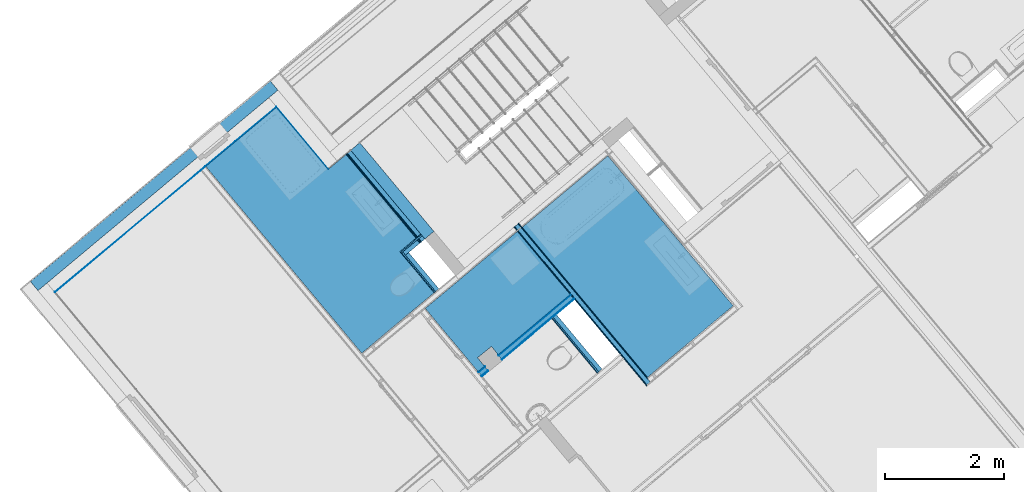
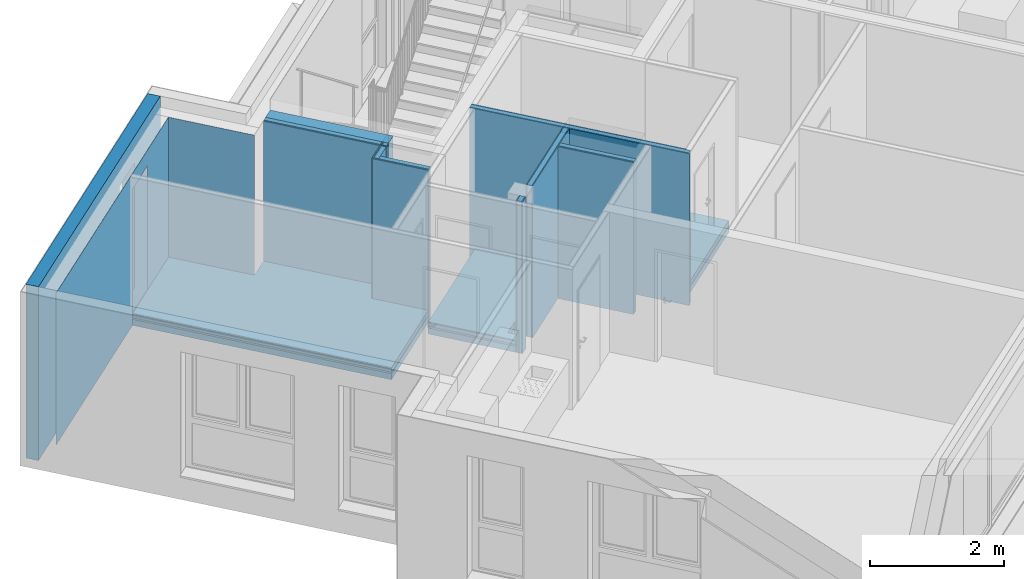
# One storey, part 24 of 50: 34 building element parts, 1 opening, 11 elements without a shape of their own.
"""IFC4 building model written with IfcOpenShell, lengths in metres."""

from ifc_helpers import new_model, entity, si_unit, converted_unit, derived_unit, direction, frame, origin_with_axes, place, context, subcontext, project, spatial, polygons, material, type_object, element, aggregate, save


model = new_model("IFC4")

# Units and contexts
model_context = context("Model", 3, precision=1e-05, world=origin_with_axes(), true_north=direction((0.0, 1.0)))
body_context = subcontext(model_context, "Body", "Model", "MODEL_VIEW")
ifc_project = project(units=[si_unit("LENGTHUNIT", "METRE"), si_unit("AREAUNIT", "SQUARE_METRE"), si_unit("VOLUMEUNIT", "CUBIC_METRE"), converted_unit("PLANEANGLEUNIT", "DEGREE", entity("IfcPlaneAngleMeasure", 0.0174532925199), si_unit("PLANEANGLEUNIT", "RADIAN"), dimensions=[0, 0, 0, 0, 0, 0, 0]), converted_unit("TIMEUNIT", "Year", entity("IfcTimeMeasure", 31556926.0), si_unit("TIMEUNIT", "SECOND"), dimensions=[0, 0, 1, 0, 0, 0, 0]), si_unit("MASSUNIT", "GRAM", prefix="KILO"), si_unit("THERMODYNAMICTEMPERATUREUNIT", "DEGREE_CELSIUS"), si_unit("LUMINOUSINTENSITYUNIT", "LUMEN"), si_unit("ENERGYUNIT", "JOULE", prefix="MEGA"), derived_unit("THERMALCONDUCTANCEUNIT", [(si_unit("POWERUNIT", "WATT"), 1), (si_unit("LENGTHUNIT", "METRE"), -1), (si_unit("THERMODYNAMICTEMPERATUREUNIT", "KELVIN"), -1)]), derived_unit("SPECIFICHEATCAPACITYUNIT", [(si_unit("ENERGYUNIT", "JOULE"), 1), (si_unit("MASSUNIT", "GRAM", prefix="KILO"), -1), (si_unit("THERMODYNAMICTEMPERATUREUNIT", "KELVIN"), -1)]), derived_unit("MASSDENSITYUNIT", [(si_unit("MASSUNIT", "GRAM", prefix="KILO"), 1), (si_unit("VOLUMEUNIT", "CUBIC_METRE"), -1)])], contexts=[model_context])

# Site, building, storey
site_placement = place(None, frame((-0.00153261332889, -0.00661245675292, 0.0), z_axis=(0.0, 0.0, 1.0), x_axis=(1.0, 0.0, 0.0)))
site = spatial("IfcSite", under=ifc_project, at=site_placement, Name="Site", CompositionType="ELEMENT")
building_placement = place(site_placement, origin_with_axes())
building = spatial("IfcBuilding", under=site, at=building_placement, Name="Building", CompositionType="ELEMENT")
storey_placement = place(building_placement, frame((0.0, 0.0, 2.74), z_axis=(0.0, 0.0, 1.0), x_axis=(1.0, 0.0, 0.0)))
storey = spatial("IfcBuildingStorey", under=building, at=storey_placement, Name="OG1", CompositionType="ELEMENT", Elevation=2.74)

# Wall, building element parts
wall_type_1 = type_object("IfcWallType", Name="LB 10,5 cm doppelte Vorsatzschale Bad 105", PredefinedType="NOTDEFINED")
wall_1_placement = place(storey_placement, frame((-0.587223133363, 19.7162753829, 0.0), z_axis=(0.0, 0.0, 1.0), x_axis=(0.64120952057, -0.767365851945, 0.0)))
wall_1 = element("IfcWall", 1, at=wall_1_placement, inside=storey, type_object=wall_type_1, Name="Wand-004", PredefinedType="NOTDEFINED")
ifc_material_1 = material(Name="Mineralwolle weich")
building_element_part_1_placement = place(wall_1_placement, origin_with_axes())
building_element_part_1 = element("IfcBuildingElementPart", 2, at=building_element_part_1_placement, material=ifc_material_1, Name="Mineralwolle weich", PredefinedType="NOTDEFINED", context=body_context, shape_type="Tessellation", body=[
    polygons([(1.30487896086, 0.0, 2.76), (0.10500000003, 0.0, 2.76), (0.105000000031, -0.075, 2.76), (1.30487896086, -0.075, 2.76), (1.30487896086, 0.0, 0.0), (0.10500000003, 0.0, 0.0), (0.105000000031, -0.075, 0.0), (1.30487896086, -0.075, 0.0)], [[[1, 2, 3, 4]], [[5, 6, 2, 1]], [[3, 2, 6, 7]], [[4, 3, 7, 8]], [[4, 8, 5, 1]], [[8, 7, 6, 5]]], closed=True),
])
ifc_material_2 = material(Name="Gipskarton")
building_element_part_2_placement = place(wall_1_placement, origin_with_axes())
building_element_part_2 = element("IfcBuildingElementPart", 3, at=building_element_part_2_placement, material=ifc_material_2, Name="Gipskarton", PredefinedType="NOTDEFINED", context=body_context, shape_type="Tessellation", body=[
    polygons([(1.30487896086, -0.075, 2.76), (0.105000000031, -0.075, 2.76), (0.105000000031, -0.09, 2.76), (1.30487896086, -0.09, 2.76), (1.30487896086, -0.075, 0.0), (0.105000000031, -0.075, 0.0), (0.105000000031, -0.09, 0.0), (1.30487896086, -0.09, 0.0)], [[[1, 2, 3, 4]], [[5, 6, 2, 1]], [[3, 2, 6, 7]], [[4, 3, 7, 8]], [[4, 8, 5, 1]], [[8, 7, 6, 5]]], closed=True),
])
building_element_part_3_placement = place(wall_1_placement, origin_with_axes())
building_element_part_3 = element("IfcBuildingElementPart", 4, at=building_element_part_3_placement, material=ifc_material_2, Name="Gipskarton", PredefinedType="NOTDEFINED", context=body_context, shape_type="Tessellation", body=[
    polygons([(1.30487896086, -0.09, 2.76), (0.105000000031, -0.09, 2.76), (0.105000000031, -0.105, 2.76), (1.30487896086, -0.105, 2.76), (1.30487896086, -0.09, 0.0), (0.105000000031, -0.09, 0.0), (0.105000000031, -0.105, 0.0), (1.30487896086, -0.105, 0.0)], [[[1, 2, 3, 4]], [[5, 6, 2, 1]], [[3, 2, 6, 7]], [[4, 3, 7, 8]], [[4, 8, 5, 1]], [[8, 7, 6, 5]]], closed=True),
])
aggregate(wall_1, [building_element_part_1, building_element_part_2, building_element_part_3])

wall_2_placement = place(storey_placement, frame((-3.007781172, 20.6786353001, 0.0), z_axis=(0.0, 0.0, 1.0), x_axis=(0.641209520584, -0.767365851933, 0.0)))
wall_2 = element("IfcWall", 5, at=wall_2_placement, inside=storey, type_object=wall_type_1, Name="Wand-004", PredefinedType="NOTDEFINED")
building_element_part_4_placement = place(wall_2_placement, origin_with_axes())
building_element_part_4 = element("IfcBuildingElementPart", 6, at=building_element_part_4_placement, material=ifc_material_1, Name="Mineralwolle weich", PredefinedType="NOTDEFINED", context=body_context, shape_type="Tessellation", body=[
    polygons([(0.795549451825, 0.0, 2.76), (0.0, 0.0, 2.76), (0.0, -0.075, 2.76), (0.795584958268, -0.075, 2.76), (0.795549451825, 0.0, 0.0), (0.0, 0.0, 0.0), (0.0, -0.075, 0.0), (0.795584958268, -0.075, 0.0)], [[[1, 2, 3, 4]], [[5, 6, 2, 1]], [[3, 2, 6, 7]], [[4, 3, 7, 8]], [[4, 8, 5, 1]], [[8, 7, 6, 5]]], closed=True),
])
building_element_part_5_placement = place(wall_2_placement, origin_with_axes())
building_element_part_5 = element("IfcBuildingElementPart", 7, at=building_element_part_5_placement, material=ifc_material_2, Name="Gipskarton", PredefinedType="NOTDEFINED", context=body_context, shape_type="Tessellation", body=[
    polygons([(0.795584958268, -0.075, 2.76), (-0.0750000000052, -0.075, 2.76), (-0.0750000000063, -0.09, 2.76), (0.795592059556, -0.09, 2.76), (0.795584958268, -0.075, 0.0), (-0.0750000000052, -0.075, 0.0), (-0.0750000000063, -0.09, 0.0), (0.795592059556, -0.09, 0.0)], [[[1, 2, 3, 4]], [[5, 6, 2, 1]], [[3, 2, 6, 7]], [[4, 3, 7, 8]], [[4, 8, 5, 1]], [[8, 7, 6, 5]]], closed=True),
])
building_element_part_6_placement = place(wall_2_placement, origin_with_axes())
building_element_part_6 = element("IfcBuildingElementPart", 8, at=building_element_part_6_placement, material=ifc_material_2, Name="Gipskarton", PredefinedType="NOTDEFINED", context=body_context, shape_type="Tessellation", body=[
    polygons([(0.795592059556, -0.09, 2.76), (-0.0900000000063, -0.09, 2.76), (-0.0900000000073, -0.105, 2.76), (0.795599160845, -0.105, 2.76), (0.795592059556, -0.09, 0.0), (-0.0900000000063, -0.09, 0.0), (-0.0900000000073, -0.105, 0.0), (0.795599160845, -0.105, 0.0)], [[[1, 2, 3, 4]], [[5, 6, 2, 1]], [[3, 2, 6, 7]], [[4, 3, 7, 8]], [[4, 8, 5, 1]], [[8, 7, 6, 5]]], closed=True),
])
aggregate(wall_2, [building_element_part_4, building_element_part_5, building_element_part_6])

wall_3_placement = place(storey_placement, frame((-2.73492476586, 20.9066336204, 0.0), z_axis=(0.0, 0.0, 1.0), x_axis=(-0.767365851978, -0.64120952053, 0.0)))
wall_3 = element("IfcWall", 9, at=wall_3_placement, inside=storey, type_object=wall_type_1, Name="Wand-004", PredefinedType="NOTDEFINED")
building_element_part_7_placement = place(wall_3_placement, origin_with_axes())
building_element_part_7 = element("IfcBuildingElementPart", 10, at=building_element_part_7_placement, material=ifc_material_1, Name="Mineralwolle weich", PredefinedType="NOTDEFINED", context=body_context, shape_type="Tessellation", body=[
    polygons([(0.430575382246, 0.0, 2.76), (0.0, 0.0, 2.76), (0.0, -0.075, 2.76), (0.430575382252, -0.075, 2.76), (0.430575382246, 0.0, 0.0), (0.0, 0.0, 0.0), (0.0, -0.075, 0.0), (0.430575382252, -0.075, 0.0)], [[[1, 2, 3, 4]], [[5, 6, 2, 1]], [[3, 2, 6, 7]], [[4, 3, 7, 8]], [[4, 8, 5, 1]], [[8, 7, 6, 5]]], closed=True),
])
building_element_part_8_placement = place(wall_3_placement, origin_with_axes())
building_element_part_8 = element("IfcBuildingElementPart", 11, at=building_element_part_8_placement, material=ifc_material_2, Name="Gipskarton", PredefinedType="NOTDEFINED", context=body_context, shape_type="Tessellation", body=[
    polygons([(0.445575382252, -0.075, 2.76), (0.0, -0.075, 2.76), (0.0, -0.09, 2.76), (0.445575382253, -0.09, 2.76), (0.445575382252, -0.075, 0.0), (0.0, -0.075, 0.0), (0.0, -0.09, 0.0), (0.445575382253, -0.09, 0.0)], [[[1, 2, 3, 4]], [[5, 6, 2, 1]], [[3, 2, 6, 7]], [[4, 3, 7, 8]], [[4, 8, 5, 1]], [[8, 7, 6, 5]]], closed=True),
])
building_element_part_9_placement = place(wall_3_placement, origin_with_axes())
building_element_part_9 = element("IfcBuildingElementPart", 12, at=building_element_part_9_placement, material=ifc_material_2, Name="Gipskarton", PredefinedType="NOTDEFINED", context=body_context, shape_type="Tessellation", body=[
    polygons([(0.460575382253, -0.09, 2.76), (0.0, -0.09, 2.76), (0.0, -0.105, 2.76), (0.460575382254, -0.105, 2.76), (0.460575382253, -0.09, 0.0), (0.0, -0.09, 0.0), (0.0, -0.105, 0.0), (0.460575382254, -0.105, 0.0)], [[[1, 2, 3, 4]], [[5, 6, 2, 1]], [[3, 2, 6, 7]], [[4, 3, 7, 8]], [[4, 8, 5, 1]], [[8, 7, 6, 5]]], closed=True),
])
aggregate(wall_3, [building_element_part_7, building_element_part_8, building_element_part_9])

wall_type_2 = type_object("IfcWallType", Name="IW LB 01 Leichtbautrennwand einfach 10,5 cm 105", PredefinedType="NOTDEFINED")
wall_4_placement = place(storey_placement, frame((-0.283908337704, 19.9697246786, 0.0), z_axis=(0.0, 0.0, 1.0), x_axis=(-0.76736585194, -0.641209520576, 0.0)))
wall_4 = element("IfcWall", 13, at=wall_4_placement, inside=storey, type_object=wall_type_2, Name="Wand-012", PredefinedType="NOTDEFINED")
building_element_part_10_placement = place(wall_4_placement, origin_with_axes())
building_element_part_10 = element("IfcBuildingElementPart", 14, at=building_element_part_10_placement, material=ifc_material_2, Name="Gipskarton", PredefinedType="NOTDEFINED", context=body_context, shape_type="Tessellation", body=[
    polygons([(1.88476244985, 0.105, 0.0), (1.88476244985, 0.105, 2.76), (2.02595275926, 0.105, 2.76), (2.02595275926, 0.105, 0.0), (1.88453826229, 0.09, 2.76), (1.88453826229, 0.09, 0.0), (2.02595275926, 0.09, 2.76), (2.02595275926, 0.09, 0.0)], [[[1, 2, 3, 4]], [[5, 2, 1, 6]], [[2, 5, 7, 3]], [[8, 4, 3, 7]], [[6, 1, 4, 8]], [[5, 6, 8, 7]]], closed=True),
    polygons([(1.58450475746, 0.09, 2.76), (1.58472894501, 0.105, 2.76), (0.0, 0.105, 2.76), (0.0, 0.09, 2.76), (1.58472894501, 0.105, 0.0), (1.58450475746, 0.09, 0.0), (0.0, 0.105, 0.0), (0.0, 0.09, 0.0)], [[[1, 2, 3, 4]], [[5, 2, 1, 6]], [[2, 5, 7, 3]], [[3, 7, 8, 4]], [[6, 1, 4, 8]], [[5, 6, 8, 7]]], closed=True),
])
building_element_part_11_placement = place(wall_4_placement, origin_with_axes())
building_element_part_11 = element("IfcBuildingElementPart", 15, at=building_element_part_11_placement, material=ifc_material_1, Name="Mineralwolle weich", PredefinedType="NOTDEFINED", context=body_context, shape_type="Tessellation", body=[
    polygons([(1.88453826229, 0.09, 0.0), (1.88453826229, 0.09, 2.76), (2.02595275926, 0.09, 2.76), (2.02595275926, 0.09, 0.0), (1.8834173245, 0.015, 2.76), (1.8834173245, 0.015, 0.0), (2.02595275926, 0.015, 2.76), (2.02595275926, 0.015, 0.0)], [[[1, 2, 3, 4]], [[5, 2, 1, 6]], [[2, 5, 7, 3]], [[8, 4, 3, 7]], [[6, 1, 4, 8]], [[5, 6, 8, 7]]], closed=True),
    polygons([(1.58338381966, 0.015, 2.76), (1.58450475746, 0.09, 2.76), (0.0, 0.09, 2.76), (0.0, 0.015, 2.76), (1.58450475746, 0.09, 0.0), (1.58338381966, 0.015, 0.0), (0.0, 0.09, 0.0), (0.0, 0.015, 0.0)], [[[1, 2, 3, 4]], [[5, 2, 1, 6]], [[2, 5, 7, 3]], [[3, 7, 8, 4]], [[6, 1, 4, 8]], [[5, 6, 8, 7]]], closed=True),
])
building_element_part_12_placement = place(wall_4_placement, origin_with_axes())
building_element_part_12 = element("IfcBuildingElementPart", 16, at=building_element_part_12_placement, material=ifc_material_2, Name="Gipskarton", PredefinedType="NOTDEFINED", context=body_context, shape_type="Tessellation", body=[
    polygons([(1.8834173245, 0.015, 0.0), (1.8834173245, 0.015, 2.76), (2.02595275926, 0.015, 2.76), (2.02595275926, 0.015, 0.0), (1.88319313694, 0.0, 2.76), (1.88319313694, 0.0, 0.0), (2.02595275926, 0.0, 2.76), (2.02595275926, 0.0, 0.0)], [[[1, 2, 3, 4]], [[5, 2, 1, 6]], [[2, 5, 7, 3]], [[8, 4, 3, 7]], [[6, 1, 4, 8]], [[5, 6, 8, 7]]], closed=True),
    polygons([(1.58315963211, 0.0, 2.76), (1.58338381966, 0.015, 2.76), (0.0, 0.015, 2.76), (0.0, 0.0, 2.76), (1.58338381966, 0.015, 0.0), (1.58315963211, 0.0, 0.0), (0.0, 0.015, 0.0), (0.0, 0.0, 0.0)], [[[1, 2, 3, 4]], [[5, 2, 1, 6]], [[2, 5, 7, 3]], [[3, 7, 8, 4]], [[6, 1, 4, 8]], [[5, 6, 8, 7]]], closed=True),
])
aggregate(wall_4, [building_element_part_10, building_element_part_11, building_element_part_12])

wall_type_3 = type_object("IfcWallType", Name="LB 10,5 cm doppelte Vorsatzschale Bad + STB 305", PredefinedType="NOTDEFINED")
wall_5_placement = place(storey_placement, frame((-2.58145159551, 21.0348755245, 0.0), z_axis=(0.0, 0.0, 1.0), x_axis=(-0.641209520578, 0.767365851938, 0.0)))
wall_5 = element("IfcWall", 17, at=wall_5_placement, inside=storey, type_object=wall_type_3, Name="Wand-003", PredefinedType="NOTDEFINED")
building_element_part_13_placement = place(wall_5_placement, origin_with_axes())
building_element_part_13 = element("IfcBuildingElementPart", 18, at=building_element_part_13_placement, material=ifc_material_2, Name="Gipskarton", PredefinedType="NOTDEFINED", context=body_context, shape_type="Tessellation", body=[
    polygons([(1.94498975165, 0.29, 0.0), (0.0, 0.29, 0.0), (0.0, 0.305, 0.0), (1.94498975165, 0.305, 0.0), (1.94498975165, 0.29, 2.76), (0.0, 0.29, 2.76), (0.0, 0.305, 2.76), (1.94498975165, 0.305, 2.76)], [[[1, 2, 3, 4]], [[5, 6, 2, 1]], [[3, 2, 6, 7]], [[4, 3, 7, 8]], [[4, 8, 5, 1]], [[8, 7, 6, 5]]], closed=True),
])
building_element_part_14_placement = place(wall_5_placement, origin_with_axes())
building_element_part_14 = element("IfcBuildingElementPart", 19, at=building_element_part_14_placement, material=ifc_material_2, Name="Gipskarton", PredefinedType="NOTDEFINED", context=body_context, shape_type="Tessellation", body=[
    polygons([(1.94498975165, 0.275, 0.0), (0.0, 0.275, 0.0), (0.0, 0.29, 0.0), (1.94498975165, 0.29, 0.0), (1.94498975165, 0.275, 2.76), (0.0, 0.275, 2.76), (0.0, 0.29, 2.76), (1.94498975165, 0.29, 2.76)], [[[1, 2, 3, 4]], [[5, 6, 2, 1]], [[3, 2, 6, 7]], [[4, 3, 7, 8]], [[4, 8, 5, 1]], [[8, 7, 6, 5]]], closed=True),
])
building_element_part_15_placement = place(wall_5_placement, origin_with_axes())
building_element_part_15 = element("IfcBuildingElementPart", 20, at=building_element_part_15_placement, material=ifc_material_1, Name="Mineralwolle weich", PredefinedType="NOTDEFINED", context=body_context, shape_type="Tessellation", body=[
    polygons([(1.94498975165, 0.2, 0.0), (0.0, 0.2, 0.0), (0.0, 0.275, 0.0), (1.94498975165, 0.275, 0.0), (1.94498975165, 0.2, 2.76), (0.0, 0.2, 2.76), (0.0, 0.275, 2.76), (1.94498975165, 0.275, 2.76)], [[[1, 2, 3, 4]], [[5, 6, 2, 1]], [[3, 2, 6, 7]], [[4, 3, 7, 8]], [[4, 8, 5, 1]], [[8, 7, 6, 5]]], closed=True),
])
ifc_material_3 = material(Name="Stahlbeton Wand")
building_element_part_16_placement = place(wall_5_placement, origin_with_axes())
building_element_part_16 = element("IfcBuildingElementPart", 21, at=building_element_part_16_placement, material=ifc_material_3, Name="Stahlbeton Wand", PredefinedType="NOTDEFINED", context=body_context, shape_type="Tessellation", body=[
    polygons([(1.94998975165, 0.0, 0.0), (0.0, 0.0, 0.0), (0.0, 0.2, 0.0), (1.94998975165, 0.2, 0.0), (1.94998975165, 0.0, 2.76), (0.0, 0.0, 2.76), (0.0, 0.2, 2.76), (1.94998975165, 0.2, 2.76)], [[[1, 2, 3, 4]], [[5, 6, 2, 1]], [[3, 2, 6, 7]], [[4, 3, 7, 8]], [[4, 8, 5, 1]], [[8, 7, 6, 5]]], closed=True),
])
aggregate(wall_5, [building_element_part_13, building_element_part_14, building_element_part_15, building_element_part_16])

wall_6_placement = place(storey_placement, frame((-1.23301762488, 21.1055687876, 0.0), z_axis=(0.0, 0.0, 1.0), x_axis=(0.6412095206, -0.767365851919, 0.0)))
wall_6 = element("IfcWall", 22, at=wall_6_placement, inside=storey, type_object=wall_type_2, Name="Wand-012", PredefinedType="NOTDEFINED")
building_element_part_17_placement = place(wall_6_placement, origin_with_axes())
building_element_part_17 = element("IfcBuildingElementPart", 23, at=building_element_part_17_placement, material=ifc_material_2, Name="Gipskarton", PredefinedType="NOTDEFINED", context=body_context, shape_type="Tessellation", body=[
    polygons([(3.39960026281, 0.09, 0.0), (0.0, 0.09, 0.0), (0.0, 0.105, 0.0), (3.39960026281, 0.105, 0.0), (3.39960026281, 0.09, 2.76), (0.0, 0.09, 2.76), (0.0, 0.105, 2.76), (3.39960026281, 0.105, 2.76)], [[[1, 2, 3, 4]], [[5, 6, 2, 1]], [[3, 2, 6, 7]], [[4, 3, 7, 8]], [[4, 8, 5, 1]], [[8, 7, 6, 5]]], closed=True),
])
building_element_part_18_placement = place(wall_6_placement, origin_with_axes())
building_element_part_18 = element("IfcBuildingElementPart", 24, at=building_element_part_18_placement, material=ifc_material_1, Name="Mineralwolle weich", PredefinedType="NOTDEFINED", context=body_context, shape_type="Tessellation", body=[
    polygons([(3.47460026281, 0.015, 0.0), (0.0, 0.015, 0.0), (0.0, 0.09, 0.0), (3.47460026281, 0.09, 0.0), (3.47460026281, 0.015, 2.76), (0.0, 0.015, 2.76), (0.0, 0.09, 2.76), (3.47460026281, 0.09, 2.76)], [[[1, 2, 3, 4]], [[5, 6, 2, 1]], [[3, 2, 6, 7]], [[4, 3, 7, 8]], [[4, 8, 5, 1]], [[8, 7, 6, 5]]], closed=True),
])
building_element_part_19_placement = place(wall_6_placement, origin_with_axes())
building_element_part_19 = element("IfcBuildingElementPart", 25, at=building_element_part_19_placement, material=ifc_material_2, Name="Gipskarton", PredefinedType="NOTDEFINED", context=body_context, shape_type="Tessellation", body=[
    polygons([(3.48960026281, 0.0, 0.0), (0.0, 0.0, 0.0), (0.0, 0.015, 0.0), (3.48960026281, 0.015, 0.0), (3.48960026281, 0.0, 2.76), (0.0, 0.0, 2.76), (0.0, 0.015, 2.76), (3.48960026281, 0.015, 2.76)], [[[1, 2, 3, 4]], [[5, 6, 2, 1]], [[3, 2, 6, 7]], [[4, 3, 7, 8]], [[4, 8, 5, 1]], [[8, 7, 6, 5]]], closed=True),
])
aggregate(wall_6, [building_element_part_17, building_element_part_18, building_element_part_19])

# Wall, building element part
wall_type_4 = type_object("IfcWallType", Name="AW EG 420", PredefinedType="NOTDEFINED")
wall_7_placement = place(storey_placement, frame((-4.30928730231, 22.6730576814, -0.2), z_axis=(0.0, 0.0, 1.0), x_axis=(-0.641206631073, 0.767368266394, 0.0)))
wall_7 = element("IfcWall", 26, at=wall_7_placement, inside=storey, type_object=wall_type_4, Name="Wand-002", PredefinedType="NOTDEFINED")
ifc_material_4 = material(Name="Zementputz")
building_element_part_20_placement = place(wall_7_placement, origin_with_axes())
building_element_part_20 = element("IfcBuildingElementPart", 27, at=building_element_part_20_placement, material=ifc_material_4, Name="Zementputz", PredefinedType="NOTDEFINED", context=body_context, shape_type="Tessellation", body=[
    polygons([(0.946438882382, 0.415, 2.96), (-0.420001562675, 0.415, 2.96), (-0.420001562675, 0.415, 0.2), (0.946438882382, 0.415, 0.2), (-0.420001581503, 0.42, 2.96), (0.946438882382, 0.42, 2.96), (-0.420001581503, 0.42, 0.2), (0.946438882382, 0.42, 0.2)], [[[1, 2, 3, 4]], [[5, 2, 1, 6]], [[2, 5, 7, 3]], [[4, 3, 7, 8]], [[6, 1, 4, 8]], [[5, 6, 8, 7]]], closed=True),
])
aggregate(wall_7, [building_element_part_20])

# Wall, opening, building element parts
wall_8_placement = place(storey_placement, frame((-5.04439151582, 23.5527984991, -0.2), z_axis=(0.0, 0.0, 1.0), x_axis=(-0.767368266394, -0.641206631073, 0.0)))
wall_8 = element("IfcWall", 28, at=wall_8_placement, inside=storey, type_object=wall_type_4, Name="Wand-003", PredefinedType="NOTDEFINED")
opening_placement = place(wall_8_placement, frame((1.64949240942, 0.0, 0.42), z_axis=(0.0, 0.0, 1.0), x_axis=(1.0, 0.0, 0.0)))
element("IfcOpeningElement", 29, at=opening_placement, cuts=wall_8, Name="Fenster-001", context=body_context, identifier="Reference", shape_type="Tessellation", body=[
    polygons([(0.325, 0.0, 0.0), (0.325, 0.0, 2.26), (0.325, -3.02051221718, 2.26), (0.325, -3.02051221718, 0.0), (0.325, 3.01051221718, 0.0), (0.325, 3.01051221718, 2.26), (-0.325, 0.0, 2.26), (-0.325, -3.02051221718, 2.26), (-0.325, 3.01051221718, 2.26), (-0.325, -3.02051221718, 0.0), (-0.325, 0.0, 0.0), (-0.325, 3.01051221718, 0.0)], [[[1, 2, 3, 4]], [[2, 1, 5, 6]], [[7, 8, 3, 2, 6, 9]], [[8, 10, 4, 3]], [[1, 4, 10, 11, 12, 5]], [[6, 5, 12, 9]], [[7, 11, 10, 8]], [[11, 7, 9, 12]]], closed=True),
])
building_element_part_21_placement = place(wall_8_placement, origin_with_axes())
building_element_part_21 = element("IfcBuildingElementPart", 30, at=building_element_part_21_placement, material=ifc_material_4, Name="Zementputz", PredefinedType="NOTDEFINED", context=body_context, shape_type="Tessellation", body=[
    polygons([(0.42, 0.2, 2.96), (0.42, 0.2, 0.2), (5.27974515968, 0.2, 0.2), (5.27974515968, 0.2, 2.96), (1.97449240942, 0.2, 0.42), (1.32449240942, 0.2, 0.42), (1.32449240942, 0.2, 2.68), (1.97449240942, 0.2, 2.68), (0.42, 0.205, 2.96), (0.42, 0.205, 0.2), (5.27974514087, 0.205, 0.2), (5.27974514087, 0.205, 2.96), (1.97449240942, 0.205, 0.42), (1.32449240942, 0.205, 0.42), (1.32449240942, 0.205, 2.68), (1.97449240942, 0.205, 2.68)], [[[1, 2, 3, 4], [5, 6, 7, 8]], [[9, 10, 2, 1]], [[10, 11, 3, 2]], [[4, 3, 11, 12]], [[9, 1, 4, 12]], [[13, 14, 6, 5]], [[14, 15, 7, 6]], [[15, 16, 8, 7]], [[16, 13, 5, 8]], [[12, 11, 10, 9], [13, 16, 15, 14]]], closed=True),
])
ifc_material_5 = material(Name="EPS 1")
building_element_part_22_placement = place(wall_8_placement, origin_with_axes())
building_element_part_22 = element("IfcBuildingElementPart", 31, at=building_element_part_22_placement, material=ifc_material_5, Name="EPS 1", PredefinedType="NOTDEFINED", context=body_context, shape_type="Tessellation", body=[
    polygons([(5.48474666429, -0.2, 0.0), (5.48474666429, -0.2, 3.16), (0.215, -0.2, 3.16), (0.215, -0.2, 0.0), (1.97449240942, -0.2, 0.42), (1.32449240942, -0.2, 0.42), (1.32449240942, -0.2, 2.68), (1.97449240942, -0.2, 2.68), (5.48474591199, 0.0, 0.0), (5.48474591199, 0.0, 3.16), (0.215, 0.0, 3.16), (0.215, 0.0, 0.0), (1.97449240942, 0.0, 0.42), (1.32449240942, 0.0, 0.42), (1.32449240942, 0.0, 2.68), (1.97449240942, 0.0, 2.68)], [[[1, 2, 3, 4], [5, 6, 7, 8]], [[1, 9, 10, 2]], [[2, 10, 11, 3]], [[11, 12, 4, 3]], [[9, 1, 4, 12]], [[13, 14, 6, 5]], [[14, 15, 7, 6]], [[15, 16, 8, 7]], [[16, 13, 5, 8]], [[10, 9, 12, 11], [13, 16, 15, 14]]], closed=True),
])
aggregate(wall_8, [building_element_part_21, building_element_part_22])

# Covering, building element parts
covering_type = type_object("IfcCoveringType", Name="DE 01 Decke Wohnung/Wohnung Fließen 220", PredefinedType="NOTDEFINED")
covering_1_placement = place(storey_placement, frame((2.46070637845, 19.7813643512, 0.22), z_axis=(0.0, 0.0, 1.0), x_axis=(1.0, 0.0, 0.0)))
covering_1 = element("IfcCovering", 32, at=covering_1_placement, inside=storey, type_object=covering_type, Name="Decke-003", PredefinedType="NOTDEFINED")
ifc_material_6 = material(Name="Fliesen")
building_element_part_23_placement = place(covering_1_placement, origin_with_axes())
building_element_part_23 = element("IfcBuildingElementPart", 33, at=building_element_part_23_placement, material=ifc_material_6, Name="Fliesen", PredefinedType="NOTDEFINED", context=body_context, shape_type="Tessellation", body=[
    polygons([(0.0, 0.0, -0.015), (-2.11244671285, 2.52823254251, -0.015), (-2.11244671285, 2.52823254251, 0.0), (0.0, 0.0, 0.0), (-1.44291267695, -1.20569522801, -0.015), (-3.55544192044, 1.32246835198, -0.015), (-3.55544192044, 1.32246835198, 0.0), (-1.44291267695, -1.20569522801, 0.0)], [[[1, 2, 3, 4]], [[2, 1, 5, 6]], [[2, 6, 7, 3]], [[8, 4, 3, 7]], [[5, 1, 4, 8]], [[6, 5, 8, 7]]], closed=True),
])
ifc_material_7 = material(Name="Estrich")
building_element_part_24_placement = place(covering_1_placement, origin_with_axes())
building_element_part_24 = element("IfcBuildingElementPart", 34, at=building_element_part_24_placement, material=ifc_material_7, Name="Estrich", PredefinedType="NOTDEFINED", context=body_context, shape_type="Tessellation", body=[
    polygons([(0.0, 0.0, -0.08), (-2.11244671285, 2.52823254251, -0.08), (-2.11244671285, 2.52823254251, -0.015), (0.0, 0.0, -0.015), (-1.44291267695, -1.20569522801, -0.08), (-3.55544192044, 1.32246835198, -0.08), (-3.55544192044, 1.32246835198, -0.015), (-1.44291267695, -1.20569522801, -0.015)], [[[1, 2, 3, 4]], [[2, 1, 5, 6]], [[2, 6, 7, 3]], [[8, 4, 3, 7]], [[5, 1, 4, 8]], [[6, 5, 8, 7]]], closed=True),
])
ifc_material_8 = material(Name="Trittschalldämmung")
building_element_part_25_placement = place(covering_1_placement, origin_with_axes())
building_element_part_25 = element("IfcBuildingElementPart", 35, at=building_element_part_25_placement, material=ifc_material_8, Name="Trittschalldämmung", PredefinedType="NOTDEFINED", context=body_context, shape_type="Tessellation", body=[
    polygons([(0.0, 0.0, -0.11), (-2.11244671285, 2.52823254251, -0.11), (-2.11244671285, 2.52823254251, -0.08), (0.0, 0.0, -0.08), (-1.44291267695, -1.20569522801, -0.11), (-3.55544192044, 1.32246835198, -0.11), (-3.55544192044, 1.32246835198, -0.08), (-1.44291267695, -1.20569522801, -0.08)], [[[1, 2, 3, 4]], [[2, 1, 5, 6]], [[2, 6, 7, 3]], [[8, 4, 3, 7]], [[5, 1, 4, 8]], [[6, 5, 8, 7]]], closed=True),
])
ifc_material_9 = material(Name="Schüttung")
building_element_part_26_placement = place(covering_1_placement, origin_with_axes())
building_element_part_26 = element("IfcBuildingElementPart", 36, at=building_element_part_26_placement, material=ifc_material_9, Name="Schüttung", PredefinedType="NOTDEFINED", context=body_context, shape_type="Tessellation", body=[
    polygons([(0.0, 0.0, -0.11), (0.0, 0.0, -0.22), (-2.11244671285, 2.52823254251, -0.22), (-2.11244671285, 2.52823254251, -0.11), (-1.44291267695, -1.20569522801, -0.11), (-1.44291267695, -1.20569522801, -0.22), (-3.55544192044, 1.32246835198, -0.22), (-3.55544192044, 1.32246835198, -0.11)], [[[1, 2, 3, 4]], [[5, 6, 2, 1]], [[3, 2, 6, 7]], [[4, 3, 7, 8]], [[5, 1, 4, 8]], [[8, 7, 6, 5]]], closed=True),
])
aggregate(covering_1, [building_element_part_23, building_element_part_24, building_element_part_25, building_element_part_26])

covering_2_placement = place(storey_placement, frame((-2.72972930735, 19.7371746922, 0.22), z_axis=(0.0, 0.0, 1.0), x_axis=(1.0, 0.0, 0.0)))
covering_2 = element("IfcCovering", 37, at=covering_2_placement, inside=storey, type_object=covering_type, Name="Decke-003", PredefinedType="NOTDEFINED")
building_element_part_27_placement = place(covering_2_placement, origin_with_axes())
building_element_part_27 = element("IfcBuildingElementPart", 38, at=building_element_part_27_placement, material=ifc_material_6, Name="Fliesen", PredefinedType="NOTDEFINED", context=body_context, shape_type="Tessellation", body=[
    polygons([(0.89117400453, -1.06651021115, -0.015), (0.89117400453, -1.06651021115, 0.0), (0.0, 0.0, 0.0), (0.0, 0.0, -0.015), (1.00072286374, -0.974971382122, -0.015), (1.00072286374, -0.974971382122, 0.0), (0.883663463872, -0.830548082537, 0.0), (1.11672221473, -0.641647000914, 0.0), (1.2309583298, -0.782587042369, 0.0), (2.44582096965, 0.232549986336, 0.0), (1.55442053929, 1.29933116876, 0.0), (1.55442053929, 1.29933116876, -0.015), (2.44582096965, 0.232549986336, -0.015), (1.2309583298, -0.782587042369, -0.015), (1.11672221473, -0.641647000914, -0.015), (0.883663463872, -0.830548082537, -0.015)], [[[1, 2, 3, 4]], [[5, 6, 2, 1]], [[3, 2, 6, 7, 8, 9, 10, 11]], [[4, 3, 11, 12]], [[4, 12, 13, 14, 15, 16, 5, 1]], [[16, 7, 6, 5]], [[15, 8, 7, 16]], [[14, 9, 8, 15]], [[13, 10, 9, 14]], [[12, 11, 10, 13]]], closed=True),
])
building_element_part_28_placement = place(covering_2_placement, origin_with_axes())
building_element_part_28 = element("IfcBuildingElementPart", 39, at=building_element_part_28_placement, material=ifc_material_7, Name="Estrich", PredefinedType="NOTDEFINED", context=body_context, shape_type="Tessellation", body=[
    polygons([(0.89117400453, -1.06651021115, -0.08), (0.89117400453, -1.06651021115, -0.015), (0.0, 0.0, -0.015), (0.0, 0.0, -0.08), (1.00072286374, -0.974971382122, -0.08), (1.00072286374, -0.974971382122, -0.015), (0.883663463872, -0.830548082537, -0.015), (1.11672221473, -0.641647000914, -0.015), (1.2309583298, -0.782587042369, -0.015), (2.44582096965, 0.232549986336, -0.015), (1.55442053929, 1.29933116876, -0.015), (1.55442053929, 1.29933116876, -0.08), (2.44582096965, 0.232549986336, -0.08), (1.2309583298, -0.782587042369, -0.08), (1.11672221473, -0.641647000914, -0.08), (0.883663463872, -0.830548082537, -0.08)], [[[1, 2, 3, 4]], [[5, 6, 2, 1]], [[3, 2, 6, 7, 8, 9, 10, 11]], [[4, 3, 11, 12]], [[4, 12, 13, 14, 15, 16, 5, 1]], [[16, 7, 6, 5]], [[15, 8, 7, 16]], [[14, 9, 8, 15]], [[13, 10, 9, 14]], [[12, 11, 10, 13]]], closed=True),
])
building_element_part_29_placement = place(covering_2_placement, origin_with_axes())
building_element_part_29 = element("IfcBuildingElementPart", 40, at=building_element_part_29_placement, material=ifc_material_8, Name="Trittschalldämmung", PredefinedType="NOTDEFINED", context=body_context, shape_type="Tessellation", body=[
    polygons([(0.89117400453, -1.06651021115, -0.11), (0.89117400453, -1.06651021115, -0.08), (0.0, 0.0, -0.08), (0.0, 0.0, -0.11), (1.00072286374, -0.974971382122, -0.11), (1.00072286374, -0.974971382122, -0.08), (0.883663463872, -0.830548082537, -0.08), (1.11672221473, -0.641647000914, -0.08), (1.2309583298, -0.782587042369, -0.08), (2.44582096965, 0.232549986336, -0.08), (1.55442053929, 1.29933116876, -0.08), (1.55442053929, 1.29933116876, -0.11), (2.44582096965, 0.232549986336, -0.11), (1.2309583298, -0.782587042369, -0.11), (1.11672221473, -0.641647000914, -0.11), (0.883663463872, -0.830548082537, -0.11)], [[[1, 2, 3, 4]], [[5, 6, 2, 1]], [[3, 2, 6, 7, 8, 9, 10, 11]], [[4, 3, 11, 12]], [[4, 12, 13, 14, 15, 16, 5, 1]], [[16, 7, 6, 5]], [[15, 8, 7, 16]], [[14, 9, 8, 15]], [[13, 10, 9, 14]], [[12, 11, 10, 13]]], closed=True),
])
building_element_part_30_placement = place(covering_2_placement, origin_with_axes())
building_element_part_30 = element("IfcBuildingElementPart", 41, at=building_element_part_30_placement, material=ifc_material_9, Name="Schüttung", PredefinedType="NOTDEFINED", context=body_context, shape_type="Tessellation", body=[
    polygons([(0.0, 0.0, -0.22), (0.89117400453, -1.06651021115, -0.22), (0.89117400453, -1.06651021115, -0.11), (0.0, 0.0, -0.11), (1.55442053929, 1.29933116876, -0.22), (2.44582096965, 0.232549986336, -0.22), (1.2309583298, -0.782587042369, -0.22), (1.11672221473, -0.641647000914, -0.22), (0.883663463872, -0.830548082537, -0.22), (1.00072286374, -0.974971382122, -0.22), (1.00072286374, -0.974971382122, -0.11), (0.883663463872, -0.830548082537, -0.11), (1.11672221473, -0.641647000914, -0.11), (1.2309583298, -0.782587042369, -0.11), (2.44582096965, 0.232549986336, -0.11), (1.55442053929, 1.29933116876, -0.11)], [[[1, 2, 3, 4]], [[1, 5, 6, 7, 8, 9, 10, 2]], [[2, 10, 11, 3]], [[4, 3, 11, 12, 13, 14, 15, 16]], [[5, 1, 4, 16]], [[6, 5, 16, 15]], [[7, 6, 15, 14]], [[8, 7, 14, 13]], [[9, 8, 13, 12]], [[10, 9, 12, 11]]], closed=True),
])
aggregate(covering_2, [building_element_part_27, building_element_part_28, building_element_part_29, building_element_part_30])

covering_3_placement = place(storey_placement, frame((-5.23525427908, 23.1261941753, 0.22), z_axis=(0.0, 0.0, 1.0), x_axis=(1.0, 0.0, 0.0)))
covering_3 = element("IfcCovering", 42, at=covering_3_placement, inside=storey, type_object=covering_type, Name="Decke-004", PredefinedType="NOTDEFINED")
building_element_part_31_placement = place(covering_3_placement, origin_with_axes())
building_element_part_31 = element("IfcBuildingElementPart", 43, at=building_element_part_31_placement, material=ifc_material_6, Name="Fliesen", PredefinedType="NOTDEFINED", context=body_context, shape_type="Tessellation", body=[
    polygons([(1.54507449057e-05, -1.29558203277e-05, -0.015), (1.54507449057e-05, -1.29558203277e-05, 0.0), (0.872981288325, -1.0447381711, 0.0), (0.872981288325, -1.0447381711, -0.015), (-1.19285210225, -0.996763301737, 0.0), (-1.19285210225, -0.996763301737, -0.015), (1.43789442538, -4.14510244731, 0.0), (2.65704545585, -3.12540148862, 0.0), (2.07957269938, -2.4343124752, 0.0), (2.35242908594, -2.20631411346, 0.0), (1.17261016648, -0.794368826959, 0.0), (1.17261016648, -0.794368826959, -0.015), (2.35242908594, -2.20631411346, -0.015), (2.07957269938, -2.4343124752, -0.015), (2.65704545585, -3.12540148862, -0.015), (1.43789442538, -4.14510244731, -0.015)], [[[1, 2, 3, 4]], [[5, 2, 1, 6]], [[2, 5, 7, 8, 9, 10, 11, 3]], [[12, 4, 3, 11]], [[6, 1, 4, 12, 13, 14, 15, 16]], [[5, 6, 16, 7]], [[16, 15, 8, 7]], [[15, 14, 9, 8]], [[14, 13, 10, 9]], [[13, 12, 11, 10]]], closed=True),
])
building_element_part_32_placement = place(covering_3_placement, origin_with_axes())
building_element_part_32 = element("IfcBuildingElementPart", 44, at=building_element_part_32_placement, material=ifc_material_7, Name="Estrich", PredefinedType="NOTDEFINED", context=body_context, shape_type="Tessellation", body=[
    polygons([(1.54507449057e-05, -1.29558203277e-05, -0.08), (1.54507449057e-05, -1.29558203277e-05, -0.015), (0.872981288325, -1.0447381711, -0.015), (0.872981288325, -1.0447381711, -0.08), (-1.19285210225, -0.996763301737, -0.015), (-1.19285210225, -0.996763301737, -0.08), (1.43789442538, -4.14510244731, -0.015), (2.65704545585, -3.12540148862, -0.015), (2.07957269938, -2.4343124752, -0.015), (2.35242908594, -2.20631411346, -0.015), (1.17261016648, -0.794368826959, -0.015), (1.17261016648, -0.794368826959, -0.08), (2.35242908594, -2.20631411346, -0.08), (2.07957269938, -2.4343124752, -0.08), (2.65704545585, -3.12540148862, -0.08), (1.43789442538, -4.14510244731, -0.08)], [[[1, 2, 3, 4]], [[5, 2, 1, 6]], [[2, 5, 7, 8, 9, 10, 11, 3]], [[12, 4, 3, 11]], [[6, 1, 4, 12, 13, 14, 15, 16]], [[5, 6, 16, 7]], [[16, 15, 8, 7]], [[15, 14, 9, 8]], [[14, 13, 10, 9]], [[13, 12, 11, 10]]], closed=True),
])
building_element_part_33_placement = place(covering_3_placement, origin_with_axes())
building_element_part_33 = element("IfcBuildingElementPart", 45, at=building_element_part_33_placement, material=ifc_material_8, Name="Trittschalldämmung", PredefinedType="NOTDEFINED", context=body_context, shape_type="Tessellation", body=[
    polygons([(1.54507449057e-05, -1.29558203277e-05, -0.11), (1.54507449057e-05, -1.29558203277e-05, -0.08), (0.872981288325, -1.0447381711, -0.08), (0.872981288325, -1.0447381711, -0.11), (-1.19285210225, -0.996763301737, -0.08), (-1.19285210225, -0.996763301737, -0.11), (1.43789442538, -4.14510244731, -0.08), (2.65704545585, -3.12540148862, -0.08), (2.07957269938, -2.4343124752, -0.08), (2.35242908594, -2.20631411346, -0.08), (1.17261016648, -0.794368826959, -0.08), (1.17261016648, -0.794368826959, -0.11), (2.35242908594, -2.20631411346, -0.11), (2.07957269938, -2.4343124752, -0.11), (2.65704545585, -3.12540148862, -0.11), (1.43789442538, -4.14510244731, -0.11)], [[[1, 2, 3, 4]], [[5, 2, 1, 6]], [[2, 5, 7, 8, 9, 10, 11, 3]], [[12, 4, 3, 11]], [[6, 1, 4, 12, 13, 14, 15, 16]], [[5, 6, 16, 7]], [[16, 15, 8, 7]], [[15, 14, 9, 8]], [[14, 13, 10, 9]], [[13, 12, 11, 10]]], closed=True),
])
building_element_part_34_placement = place(covering_3_placement, origin_with_axes())
building_element_part_34 = element("IfcBuildingElementPart", 46, at=building_element_part_34_placement, material=ifc_material_9, Name="Schüttung", PredefinedType="NOTDEFINED", context=body_context, shape_type="Tessellation", body=[
    polygons([(1.54507449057e-05, -1.29558203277e-05, -0.22), (1.54507449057e-05, -1.29558203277e-05, -0.11), (0.872981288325, -1.0447381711, -0.11), (0.872981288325, -1.0447381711, -0.22), (-1.19285210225, -0.996763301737, -0.11), (-1.19285210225, -0.996763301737, -0.22), (1.43789442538, -4.14510244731, -0.11), (2.65704545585, -3.12540148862, -0.11), (2.07957269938, -2.4343124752, -0.11), (2.35242908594, -2.20631411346, -0.11), (1.17261016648, -0.794368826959, -0.11), (1.17261016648, -0.794368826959, -0.22), (2.35242908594, -2.20631411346, -0.22), (2.07957269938, -2.4343124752, -0.22), (2.65704545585, -3.12540148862, -0.22), (1.43789442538, -4.14510244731, -0.22)], [[[1, 2, 3, 4]], [[5, 2, 1, 6]], [[2, 5, 7, 8, 9, 10, 11, 3]], [[11, 12, 4, 3]], [[6, 1, 4, 12, 13, 14, 15, 16]], [[5, 6, 16, 7]], [[7, 16, 15, 8]], [[8, 15, 14, 9]], [[9, 14, 13, 10]], [[10, 13, 12, 11]]], closed=True),
])
aggregate(covering_3, [building_element_part_31, building_element_part_32, building_element_part_33, building_element_part_34])

save(model, "model.ifc")
